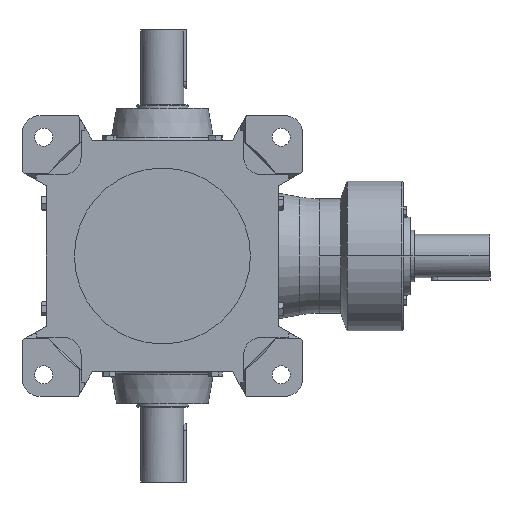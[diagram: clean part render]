
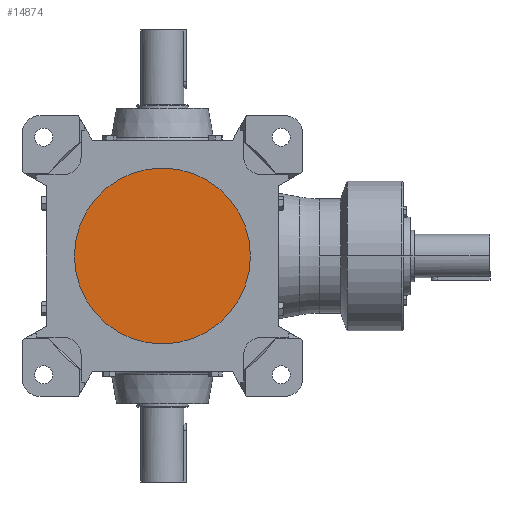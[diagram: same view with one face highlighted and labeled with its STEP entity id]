
A CAD part, front view. The second image highlights one B-rep face of the part: STEP entity #14874.
In plain terms, the highlighted planar face has unit normal (0, -1, 0).
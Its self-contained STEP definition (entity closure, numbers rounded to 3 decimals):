
#261 = AXIS2_PLACEMENT_3D ( 'NONE', #10234, #2993, #2933 ) ;
#892 = DIRECTION ( 'NONE',  ( 0., 0., -1. ) ) ;
#2118 = VERTEX_POINT ( 'NONE', #9222 ) ;
#2200 = EDGE_LOOP ( 'NONE', ( #9352, #4888 ) ) ;
#2933 = DIRECTION ( 'NONE',  ( 0., 0., -1. ) ) ;
#2993 = DIRECTION ( 'NONE',  ( 0., -1., 0. ) ) ;
#4888 = ORIENTED_EDGE ( 'NONE', *, *, #13978, .T. ) ;
#5284 = CARTESIAN_POINT ( 'NONE',  ( 0., -172., 0. ) ) ;
#5340 = DIRECTION ( 'NONE',  ( 0., -1., 0. ) ) ;
#6069 = DIRECTION ( 'NONE',  ( 0., -1., 0. ) ) ;
#7308 = AXIS2_PLACEMENT_3D ( 'NONE', #13367, #6069, #7474 ) ;
#7474 = DIRECTION ( 'NONE',  ( 0., 0., -1. ) ) ;
#9222 = CARTESIAN_POINT ( 'NONE',  ( 0., -172., 122.188 ) ) ;
#9352 = ORIENTED_EDGE ( 'NONE', *, *, #9623, .T. ) ;
#9530 = FACE_OUTER_BOUND ( 'NONE', #2200, .T. ) ;
#9623 = EDGE_CURVE ( 'NONE', #17005, #2118, #11295, .T. ) ;
#9933 = AXIS2_PLACEMENT_3D ( 'NONE', #5284, #5340, #892 ) ;
#10234 = CARTESIAN_POINT ( 'NONE',  ( 0., -172., 0. ) ) ;
#11295 = CIRCLE ( 'NONE', #9933, 122.188 ) ;
#13367 = CARTESIAN_POINT ( 'NONE',  ( 0., -172., 0. ) ) ;
#13671 = CARTESIAN_POINT ( 'NONE',  ( 0., -172., -122.188 ) ) ;
#13978 = EDGE_CURVE ( 'NONE', #2118, #17005, #15292, .T. ) ;
#14874 = ADVANCED_FACE ( 'NONE', ( #9530 ), #19043, .T. ) ;
#15292 = CIRCLE ( 'NONE', #7308, 122.188 ) ;
#17005 = VERTEX_POINT ( 'NONE', #13671 ) ;
#19043 = PLANE ( 'NONE',  #261 ) ;
